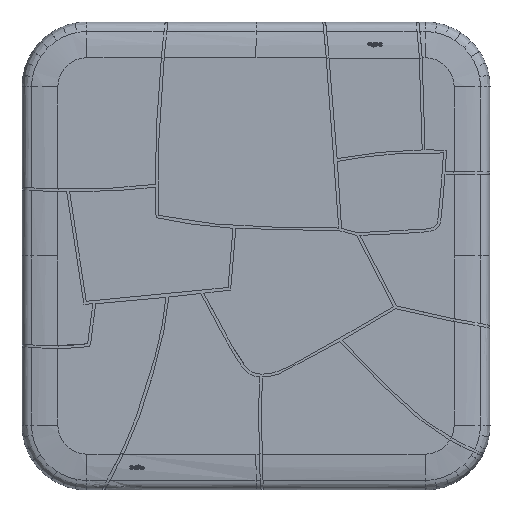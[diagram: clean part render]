
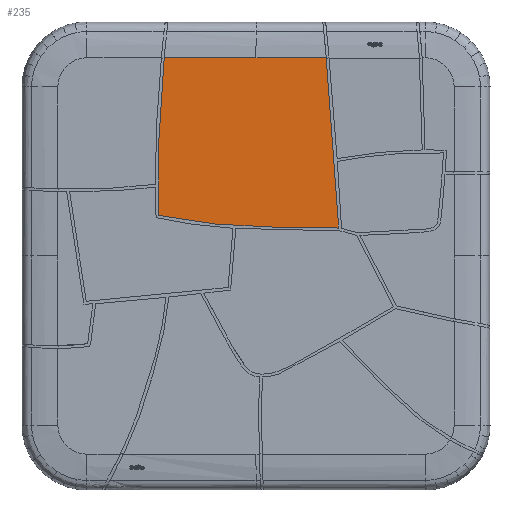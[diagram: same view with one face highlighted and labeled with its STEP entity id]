
A CAD part, top view. The second image highlights one B-rep face of the part: STEP entity #235.
In plain terms, the highlighted planar face has unit normal (0, 0, 1).
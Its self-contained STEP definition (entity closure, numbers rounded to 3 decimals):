
#235=ADVANCED_FACE('',(#1019),#12622,.T.);
#1019=FACE_OUTER_BOUND('',#1804,.T.);
#1804=EDGE_LOOP('',(#3220,#3221,#3222,#3223,#3224,#3225,#3226));
#3220=ORIENTED_EDGE('',*,*,#7908,.T.);
#3221=ORIENTED_EDGE('',*,*,#7111,.T.);
#3222=ORIENTED_EDGE('',*,*,#7112,.T.);
#3223=ORIENTED_EDGE('',*,*,#7897,.T.);
#3224=ORIENTED_EDGE('',*,*,#7198,.T.);
#3225=ORIENTED_EDGE('',*,*,#7114,.T.);
#3226=ORIENTED_EDGE('',*,*,#7197,.T.);
#7111=EDGE_CURVE('',#11223,#11224,#9120,.T.);
#7112=EDGE_CURVE('',#11224,#11225,#9121,.T.);
#7114=EDGE_CURVE('',#11227,#11228,#9123,.T.);
#7197=EDGE_CURVE('',#11228,#11222,#9189,.T.);
#7198=EDGE_CURVE('',#11226,#11227,#9190,.T.);
#7897=EDGE_CURVE('',#11225,#11226,#9573,.T.);
#7908=EDGE_CURVE('',#11222,#11223,#9584,.T.);
#9120=B_SPLINE_CURVE_WITH_KNOTS('',3,(#49046,#49047,#49048,#49049),
 .UNSPECIFIED.,.F.,.F.,(4,4),(0.,124.125),.UNSPECIFIED.);
#9121=B_SPLINE_CURVE_WITH_KNOTS('',3,(#49050,#49051,#49052,#49053),
 .UNSPECIFIED.,.F.,.F.,(4,4),(0.,162.378),.UNSPECIFIED.);
#9123=B_SPLINE_CURVE_WITH_KNOTS('',3,(#49056,#49057,#49058,#49059,#49060,
#49061,#49062),.UNSPECIFIED.,.F.,.F.,(4,3,4),(-319.714,-166.314,
0.),.UNSPECIFIED.);
#9189=B_SPLINE_CURVE_WITH_KNOTS('',3,(#50073,#50074,#50075,#50076),
 .UNSPECIFIED.,.F.,.F.,(4,4),(-301.403,0.),.UNSPECIFIED.);
#9190=B_SPLINE_CURVE_WITH_KNOTS('',3,(#50077,#50078,#50079,#50080,#50081,
#50082,#50083),.UNSPECIFIED.,.F.,.F.,(4,3,4),(-278.664,-139.859,
0.),.UNSPECIFIED.);
#9573=B_SPLINE_CURVE_WITH_KNOTS('',3,(#55051,#55052,#55053,#55054),
 .UNSPECIFIED.,.F.,.F.,(4,4),(-0.352,0.),.UNSPECIFIED.);
#9584=B_SPLINE_CURVE_WITH_KNOTS('',3,(#55169,#55170,#55171,#55172),
 .UNSPECIFIED.,.F.,.F.,(4,4),(-0.351,0.),.UNSPECIFIED.);
#11222=VERTEX_POINT('',#40806);
#11223=VERTEX_POINT('',#40807);
#11224=VERTEX_POINT('',#40808);
#11225=VERTEX_POINT('',#40809);
#11226=VERTEX_POINT('',#40810);
#11227=VERTEX_POINT('',#40811);
#11228=VERTEX_POINT('',#40812);
#12622=PLANE('',#13070);
#13070=AXIS2_PLACEMENT_3D('',#29737,#13390,$);
#13390=DIRECTION('',(0.,0.,1.));
#29737=CARTESIAN_POINT('',(-205.868,19.221,13.111));
#40806=CARTESIAN_POINT('',(124.161,350.,13.111));
#40807=CARTESIAN_POINT('',(124.129,350.35,13.111));
#40808=CARTESIAN_POINT('',(0.005,350.35,13.111));
#40809=CARTESIAN_POINT('',(-162.373,350.35,13.111));
#40810=CARTESIAN_POINT('',(-162.406,350.,13.111));
#40811=CARTESIAN_POINT('',(-171.841,71.762,13.111));
#40812=CARTESIAN_POINT('',(146.203,49.432,13.111));
#49046=CARTESIAN_POINT('',(124.129,350.35,13.111));
#49047=CARTESIAN_POINT('',(82.754,350.35,13.111));
#49048=CARTESIAN_POINT('',(41.38,350.35,13.111));
#49049=CARTESIAN_POINT('',(0.005,350.35,13.111));
#49050=CARTESIAN_POINT('',(0.005,350.35,13.111));
#49051=CARTESIAN_POINT('',(-54.121,350.35,13.111));
#49052=CARTESIAN_POINT('',(-108.247,350.35,13.111));
#49053=CARTESIAN_POINT('',(-162.373,350.35,13.111));
#49056=CARTESIAN_POINT('',(-171.841,71.762,13.111));
#49057=CARTESIAN_POINT('',(-127.934,61.329,13.111));
#49058=CARTESIAN_POINT('',(-75.213,55.793,13.111));
#49059=CARTESIAN_POINT('',(-20.031,52.852,13.111));
#49060=CARTESIAN_POINT('',(35.004,49.918,13.111));
#49061=CARTESIAN_POINT('',(92.491,49.558,13.111));
#49062=CARTESIAN_POINT('',(146.203,49.432,13.111));
#50073=CARTESIAN_POINT('',(146.203,49.432,13.111));
#50074=CARTESIAN_POINT('',(140.604,149.087,13.111));
#50075=CARTESIAN_POINT('',(133.256,249.276,13.111));
#50076=CARTESIAN_POINT('',(124.161,350.,13.111));
#50077=CARTESIAN_POINT('',(-162.406,350.,13.111));
#50078=CARTESIAN_POINT('',(-166.956,301.424,13.111));
#50079=CARTESIAN_POINT('',(-169.926,254.305,13.111));
#50080=CARTESIAN_POINT('',(-171.577,211.533,13.111));
#50081=CARTESIAN_POINT('',(-173.752,155.186,13.111));
#50082=CARTESIAN_POINT('',(-173.637,106.373,13.111));
#50083=CARTESIAN_POINT('',(-171.841,71.762,13.111));
#55051=CARTESIAN_POINT('',(-162.373,350.35,13.111));
#55052=CARTESIAN_POINT('',(-162.384,350.233,13.111));
#55053=CARTESIAN_POINT('',(-162.395,350.116,13.111));
#55054=CARTESIAN_POINT('',(-162.406,350.,13.111));
#55169=CARTESIAN_POINT('',(124.161,350.,13.111));
#55170=CARTESIAN_POINT('',(124.15,350.116,13.111));
#55171=CARTESIAN_POINT('',(124.14,350.233,13.111));
#55172=CARTESIAN_POINT('',(124.129,350.35,13.111));
